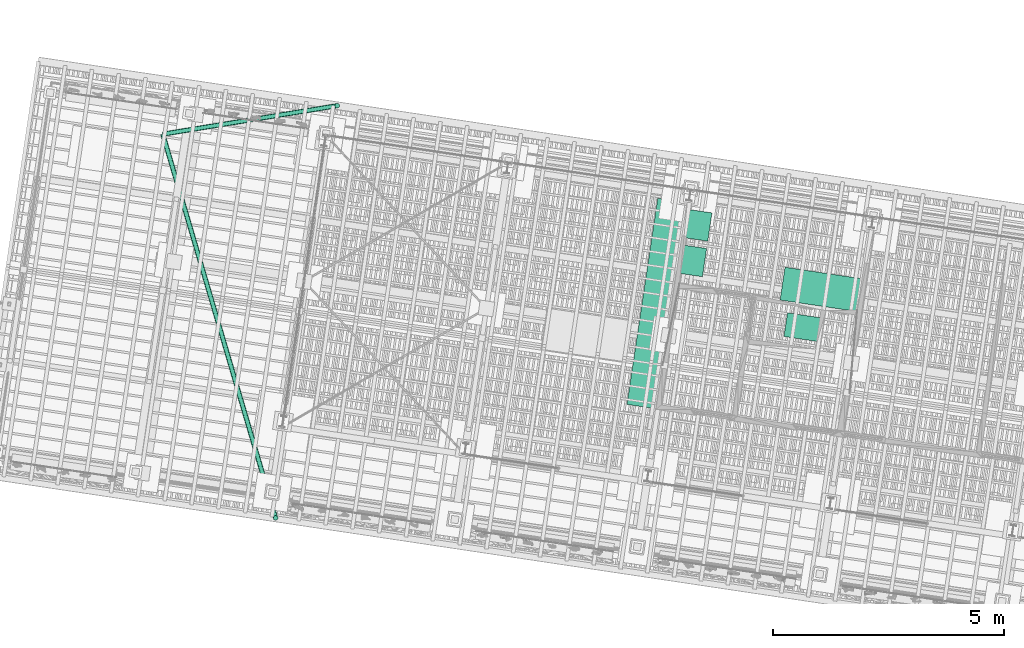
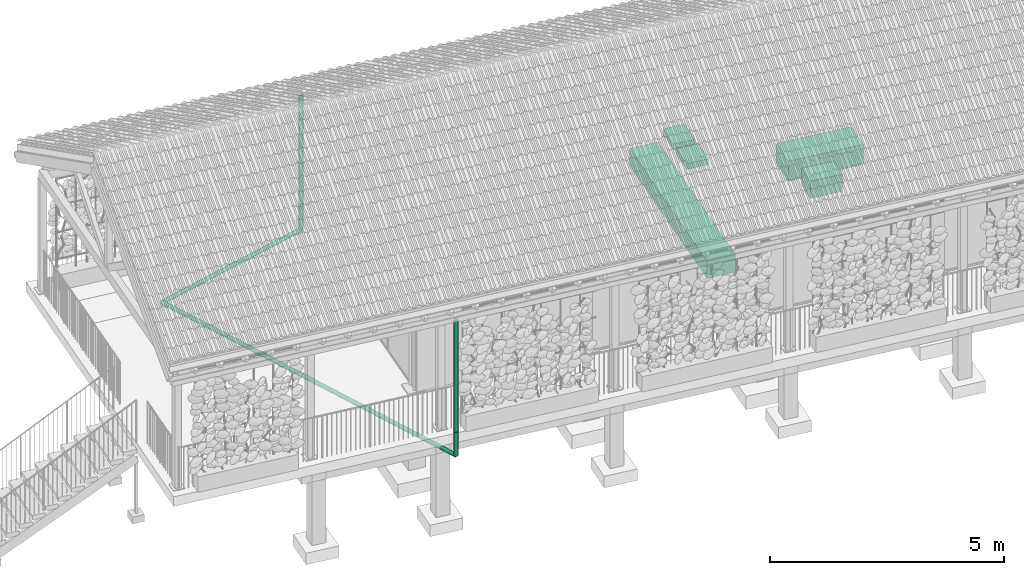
# One storey, part 129 of 131: 6 pipe segments, 5 sanitary terminals.
"""IFC4 building model written with IfcOpenShell, lengths in metres."""

from ifc_helpers import new_model, si_unit, direction, frame, origin_with_axes, place, context, subcontext, project, spatial, polyline, circle, outline, extrude, material, material_profile, profile_set, profile_usage, type_object, element, save


model = new_model("IFC4")

# Units and contexts
model_context = context("Model", 3, precision=1e-05, world=origin_with_axes(), true_north=direction((0.0, 1.0)))
body_context = subcontext(model_context, "Body", "Model", "MODEL_VIEW")
ifc_project = project(units=[si_unit("AREAUNIT", "SQUARE_METRE"), si_unit("VOLUMEUNIT", "CUBIC_METRE"), si_unit("LENGTHUNIT", "METRE")], contexts=[model_context])

# Site, building, storey
site_placement = place(None, origin_with_axes())
site = spatial("IfcSite", under=ifc_project, at=site_placement, Name="Lares · Rua das Mercês · artigo 4771")
building_placement = place(site_placement, frame((15.0, 9.7, 14.65), z_axis=(0.0, 0.0, 1.0), x_axis=(0.989015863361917, -0.147809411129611, 0.0)))
building = spatial("IfcBuilding", under=site, at=building_placement, Name="Casa Sobreposta")
storey_placement = place(building_placement, origin_with_axes())
storey = spatial("IfcBuildingStorey", under=building, at=storey_placement, Name="00 · Habitação e estacionamento", Elevation=14.65)

# Pipe segments
ifc_material_1 = material(Name="Aço galvanizado / Stahl verzinkt", Category="steel")
ifc_material_profile = material_profile(ifc_material_1, circle(Radius=0.05))
ifc_profile_set = profile_set([ifc_material_profile], Name="D0.10")
ifc_profile_usage_1 = profile_usage(ifc_profile_set)
pipe_segment_type = type_object("IfcPipeSegmentType", Name="D0.10 / galvanized", PredefinedType="NOTDEFINED", material=ifc_profile_set)
pipe_segment_1_placement = place(storey_placement, frame((0.15, -1.97, 3.08), z_axis=(0.0, 0.0, -1.0), x_axis=(1.0, 0.0, 0.0)))
element("IfcPipeSegment", 1, at=pipe_segment_1_placement, inside=storey, type_object=pipe_segment_type, material=ifc_profile_usage_1, Name="Pluvial cobertura · circuito limpo até cisterna", context=body_context, shape_type="SweptSolid", body=[
    extrude(circle(Radius=0.05), origin_with_axes(), (0.0, 0.0, 1.0), 2.9),
])
ifc_profile_usage_2 = profile_usage(ifc_profile_set)
pipe_segment_2_placement = place(storey_placement, frame((0.15, -1.97, 0.18), z_axis=(0.0, 0.0, -1.0), x_axis=(1.0, 0.0, 0.0)))
element("IfcPipeSegment", 2, at=pipe_segment_2_placement, inside=storey, type_object=pipe_segment_type, material=ifc_profile_usage_2, Name="Pluvial cobertura · circuito limpo até cisterna", context=body_context, shape_type="SweptSolid", body=[
    extrude(circle(Radius=0.05), origin_with_axes(), (0.0, 0.0, 1.0), 0.63),
])
ifc_profile_usage_3 = profile_usage(ifc_profile_set)
pipe_segment_3_placement = place(storey_placement, frame((0.15, -1.97, -0.45), z_axis=(-0.420626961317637, 0.90694087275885, -0.023048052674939), x_axis=(0.907181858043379, 0.420738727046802, 0.0)))
element("IfcPipeSegment", 3, at=pipe_segment_3_placement, inside=storey, type_object=pipe_segment_type, material=ifc_profile_usage_3, Name="Pluvial cobertura · circuito limpo até cisterna", context=body_context, shape_type="SweptSolid", body=[
    extrude(circle(Radius=0.05), origin_with_axes(), (0.0, 0.0, 1.0), 8.67752268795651),
])
ifc_profile_usage_4 = profile_usage(ifc_profile_set)
pipe_segment_4_placement = place(storey_placement, frame((0.15, 7.07, 3.08), z_axis=(0.0, 0.0, -1.0), x_axis=(1.0, 0.0, 0.0)))
element("IfcPipeSegment", 4, at=pipe_segment_4_placement, inside=storey, type_object=pipe_segment_type, material=ifc_profile_usage_4, Name="Pluvial cobertura · circuito limpo até cisterna", context=body_context, shape_type="SweptSolid", body=[
    extrude(circle(Radius=0.05), origin_with_axes(), (0.0, 0.0, 1.0), 2.9),
])
ifc_profile_usage_5 = profile_usage(ifc_profile_set)
pipe_segment_5_placement = place(storey_placement, frame((0.15, 7.07, 0.18), z_axis=(0.0, 0.0, -1.0), x_axis=(1.0, 0.0, 0.0)))
element("IfcPipeSegment", 5, at=pipe_segment_5_placement, inside=storey, type_object=pipe_segment_type, material=ifc_profile_usage_5, Name="Pluvial cobertura · circuito limpo até cisterna", context=body_context, shape_type="SweptSolid", body=[
    extrude(circle(Radius=0.05), origin_with_axes(), (0.0, 0.0, 1.0), 0.63),
])
ifc_profile_usage_6 = profile_usage(ifc_profile_set)
pipe_segment_6_placement = place(storey_placement, frame((0.15, 7.07, -0.45), z_axis=(-0.950978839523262, -0.304834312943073, -0.0521084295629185), x_axis=(-0.305249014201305, 0.952272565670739, 0.0)))
element("IfcPipeSegment", 6, at=pipe_segment_6_placement, inside=storey, type_object=pipe_segment_type, material=ifc_profile_usage_6, Name="Pluvial cobertura · circuito limpo até cisterna", context=body_context, shape_type="SweptSolid", body=[
    extrude(circle(Radius=0.05), origin_with_axes(), (0.0, 0.0, 1.0), 3.83815059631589),
])

# Sanitary terminals
ifc_material_2 = material(Name="Cerâmica sanitária — esquema", Category="ceramic")
sanitary_terminal_1_placement = place(storey_placement, origin_with_axes())
element("IfcSanitaryTerminal", 7, at=sanitary_terminal_1_placement, inside=storey, material=ifc_material_2, Name="Banheira", PredefinedType="BATH", context=body_context, shape_type="SweptSolid", body=[
    extrude(outline(polyline([(11.991, 4.32099999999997), (11.991, 5.041), (10.271, 5.041), (10.271, 4.32099999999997), (11.991, 4.32099999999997)])), origin_with_axes(), (0.0, 0.0, 1.0), 0.52),
])
sanitary_terminal_2_placement = place(storey_placement, frame((0.0, 0.0, 0.72), z_axis=(0.0, 0.0, 1.0), x_axis=(1.0, 0.0, 0.0)))
element("IfcSanitaryTerminal", 8, at=sanitary_terminal_2_placement, inside=storey, material=ifc_material_2, Name="Lavatório 1", PredefinedType="WASHHANDBASIN", context=body_context, shape_type="SweptSolid", body=[
    extrude(outline(polyline([(8.53099999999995, 4.57099999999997), (8.53099999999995, 5.19099999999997), (8.03099999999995, 5.19099999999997), (8.03099999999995, 4.57099999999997), (8.53099999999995, 4.57099999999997)])), origin_with_axes(), (0.0, 0.0, 1.0), 0.15),
])
sanitary_terminal_3_placement = place(storey_placement, frame((0.0, 0.0, 0.72), z_axis=(0.0, 0.0, 1.0), x_axis=(1.0, 0.0, 0.0)))
element("IfcSanitaryTerminal", 9, at=sanitary_terminal_3_placement, inside=storey, material=ifc_material_2, Name="Lavatório 2", PredefinedType="WASHHANDBASIN", context=body_context, shape_type="SweptSolid", body=[
    extrude(outline(polyline([(8.53099999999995, 5.351), (8.53099999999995, 5.971), (8.03099999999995, 5.971), (8.03099999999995, 5.351), (8.53099999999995, 5.351)])), origin_with_axes(), (0.0, 0.0, 1.0), 0.15),
])
sanitary_terminal_4_placement = place(storey_placement, origin_with_axes())
element("IfcSanitaryTerminal", 10, at=sanitary_terminal_4_placement, inside=storey, material=ifc_material_2, Name="Sanita", PredefinedType="TOILETPAN", context=body_context, shape_type="SweptSolid", body=[
    extrude(outline(polyline([(11.211, 3.55099999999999), (11.211, 4.07099999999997), (10.471, 4.07099999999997), (10.471, 3.55099999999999), (11.211, 3.55099999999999)])), origin_with_axes(), (0.0, 0.0, 1.0), 0.45),
])
sanitary_terminal_5_placement = place(storey_placement, origin_with_axes())
element("IfcSanitaryTerminal", 11, at=sanitary_terminal_5_placement, inside=storey, material=ifc_material_2, Name="Bancada de cozinha", PredefinedType="TOILETPAN", context=body_context, shape_type="SweptSolid", body=[
    extrude(outline(polyline([(7.98099999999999, 1.59100000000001), (7.98099999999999, 6.11099999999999), (7.32099999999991, 6.11099999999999), (7.32099999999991, 1.59100000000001), (7.98099999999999, 1.59100000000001)])), origin_with_axes(), (0.0, 0.0, 1.0), 0.45),
])

save(model, "model.ifc")
